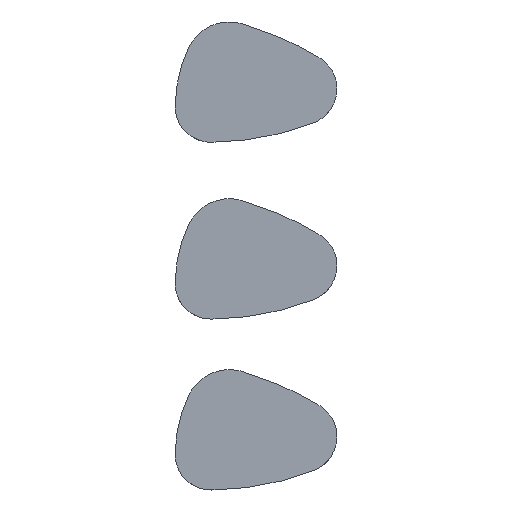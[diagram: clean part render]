
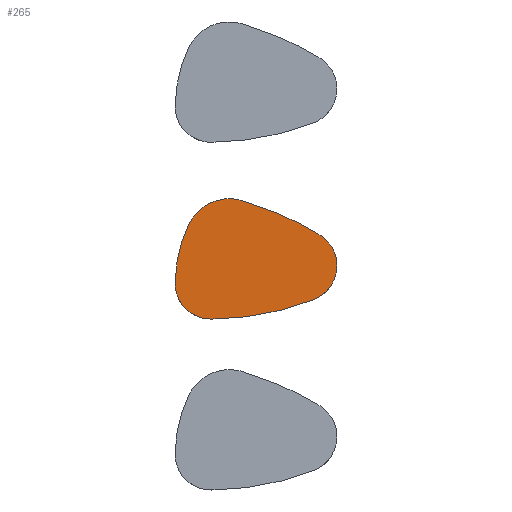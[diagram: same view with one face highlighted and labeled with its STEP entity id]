
A CAD part, top view. The second image highlights one B-rep face of the part: STEP entity #265.
In plain terms, the highlighted planar face has unit normal (0, 0, 1).
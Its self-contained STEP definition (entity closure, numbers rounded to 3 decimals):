
#265=ADVANCED_FACE('',(#1171),#14317,.T.);
#1171=FACE_OUTER_BOUND('',#2077,.T.);
#2077=EDGE_LOOP('',(#3118,#3119,#3120,#3121,#3122,#3123));
#3118=ORIENTED_EDGE('',*,*,#7689,.F.);
#3119=ORIENTED_EDGE('',*,*,#7687,.F.);
#3120=ORIENTED_EDGE('',*,*,#7685,.F.);
#3121=ORIENTED_EDGE('',*,*,#7683,.F.);
#3122=ORIENTED_EDGE('',*,*,#7681,.F.);
#3123=ORIENTED_EDGE('',*,*,#7679,.F.);
#7679=EDGE_CURVE('',#12274,#12275,#11263,.T.);
#7681=EDGE_CURVE('',#12275,#12276,#11264,.T.);
#7683=EDGE_CURVE('',#12276,#12277,#11265,.T.);
#7685=EDGE_CURVE('',#12277,#12278,#11266,.T.);
#7687=EDGE_CURVE('',#12278,#12279,#11267,.T.);
#7689=EDGE_CURVE('',#12279,#12274,#11268,.T.);
#11263=(
BOUNDED_CURVE()
B_SPLINE_CURVE(2,(#15463,#15464,#15465),.UNSPECIFIED.,.F.,.F.)
B_SPLINE_CURVE_WITH_KNOTS((3,3),(-2233.638,-1924.553),
 .UNSPECIFIED.)
CURVE()
GEOMETRIC_REPRESENTATION_ITEM()
RATIONAL_B_SPLINE_CURVE((1.,0.77,1.))
REPRESENTATION_ITEM('')
);
#11264=(
BOUNDED_CURVE()
B_SPLINE_CURVE(2,(#15468,#15469,#15470),.UNSPECIFIED.,.F.,.F.)
B_SPLINE_CURVE_WITH_KNOTS((3,3),(-1924.553,-1504.189),
 .UNSPECIFIED.)
CURVE()
GEOMETRIC_REPRESENTATION_ITEM()
RATIONAL_B_SPLINE_CURVE((1.,0.992,1.))
REPRESENTATION_ITEM('')
);
#11265=(
BOUNDED_CURVE()
B_SPLINE_CURVE(2,(#15473,#15474,#15475,#15476,#15477),.UNSPECIFIED.,.F.,
 .F.)
B_SPLINE_CURVE_WITH_KNOTS((3,2,3),(-1504.189,-1303.666,
-1103.143),.UNSPECIFIED.)
CURVE()
GEOMETRIC_REPRESENTATION_ITEM()
RATIONAL_B_SPLINE_CURVE((1.,0.849,1.,0.849,1.))
REPRESENTATION_ITEM('')
);
#11266=(
BOUNDED_CURVE()
B_SPLINE_CURVE(2,(#15480,#15481,#15482),.UNSPECIFIED.,.F.,.F.)
B_SPLINE_CURVE_WITH_KNOTS((3,3),(-1103.143,-585.085),
 .UNSPECIFIED.)
CURVE()
GEOMETRIC_REPRESENTATION_ITEM()
RATIONAL_B_SPLINE_CURVE((1.,0.983,1.))
REPRESENTATION_ITEM('')
);
#11267=(
BOUNDED_CURVE()
B_SPLINE_CURVE(2,(#15485,#15486,#15487,#15488,#15489),.UNSPECIFIED.,.F.,
 .F.)
B_SPLINE_CURVE_WITH_KNOTS((3,2,3),(-585.085,-439.031,
-292.977),.UNSPECIFIED.)
CURVE()
GEOMETRIC_REPRESENTATION_ITEM()
RATIONAL_B_SPLINE_CURVE((1.,0.916,1.,0.916,1.))
REPRESENTATION_ITEM('')
);
#11268=(
BOUNDED_CURVE()
B_SPLINE_CURVE(2,(#15492,#15493,#15494),.UNSPECIFIED.,.F.,.F.)
B_SPLINE_CURVE_WITH_KNOTS((3,3),(-292.977,0.),.UNSPECIFIED.)
CURVE()
GEOMETRIC_REPRESENTATION_ITEM()
RATIONAL_B_SPLINE_CURVE((1.,0.98,1.))
REPRESENTATION_ITEM('')
);
#12274=VERTEX_POINT('',#15433);
#12275=VERTEX_POINT('',#15434);
#12276=VERTEX_POINT('',#15435);
#12277=VERTEX_POINT('',#15436);
#12278=VERTEX_POINT('',#15437);
#12279=VERTEX_POINT('',#15438);
#14317=PLANE('',#14646);
#14646=AXIS2_PLACEMENT_3D('',#15426,#14958,$);
#14958=DIRECTION('',(0.,0.,1.));
#15426=CARTESIAN_POINT('',(1537.321,437.438,-1356.282));
#15433=CARTESIAN_POINT('',(704.103,981.001,-1356.282));
#15434=CARTESIAN_POINT('',(963.488,1099.097,-1356.282));
#15435=CARTESIAN_POINT('',(1347.856,931.665,-1356.282));
#15436=CARTESIAN_POINT('',(1325.176,609.312,-1356.282));
#15437=CARTESIAN_POINT('',(819.326,511.887,-1356.282));
#15438=CARTESIAN_POINT('',(637.232,697.784,-1356.282));
#15463=CARTESIAN_POINT('',(704.103,981.001,-1356.282));
#15464=CARTESIAN_POINT('',(784.867,1147.516,-1356.282));
#15465=CARTESIAN_POINT('',(963.488,1099.097,-1356.282));
#15468=CARTESIAN_POINT('',(963.488,1099.097,-1356.282));
#15469=CARTESIAN_POINT('',(1166.282,1039.738,-1356.282));
#15470=CARTESIAN_POINT('',(1347.856,931.665,-1356.282));
#15473=CARTESIAN_POINT('',(1347.856,931.665,-1356.282));
#15474=CARTESIAN_POINT('',(1444.711,875.244,-1356.282));
#15475=CARTESIAN_POINT('',(1436.844,763.43,-1356.282));
#15476=CARTESIAN_POINT('',(1428.977,651.615,-1356.282));
#15477=CARTESIAN_POINT('',(1325.176,609.312,-1356.282));
#15480=CARTESIAN_POINT('',(1325.176,609.312,-1356.282));
#15481=CARTESIAN_POINT('',(1081.307,513.58,-1356.282));
#15482=CARTESIAN_POINT('',(819.326,511.887,-1356.282));
#15485=CARTESIAN_POINT('',(819.326,511.887,-1356.282));
#15486=CARTESIAN_POINT('',(741.905,509.766,-1356.282));
#15487=CARTESIAN_POINT('',(687.709,565.095,-1356.282));
#15488=CARTESIAN_POINT('',(633.512,620.424,-1356.282));
#15489=CARTESIAN_POINT('',(637.232,697.784,-1356.282));
#15492=CARTESIAN_POINT('',(637.232,697.784,-1356.282));
#15493=CARTESIAN_POINT('',(641.787,846.212,-1356.282));
#15494=CARTESIAN_POINT('',(704.103,981.001,-1356.282));
